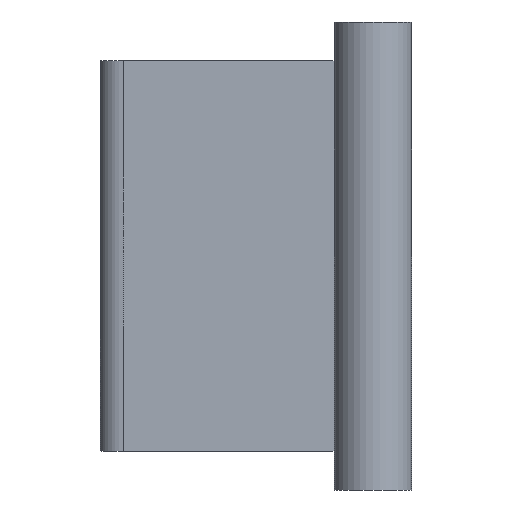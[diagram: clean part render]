
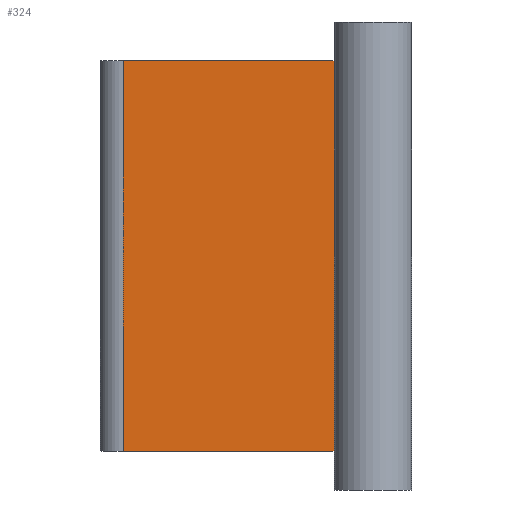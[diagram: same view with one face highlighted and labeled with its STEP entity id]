
A CAD part, left-side view. The second image highlights one B-rep face of the part: STEP entity #324.
In plain terms, the highlighted planar face has unit normal (-1, 0, 0).
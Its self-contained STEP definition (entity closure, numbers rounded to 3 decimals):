
#5 = VERTEX_POINT ( 'NONE', #74 ) ;
#10 = CARTESIAN_POINT ( 'NONE',  ( -271., 70., 50. ) ) ;
#13 = EDGE_CURVE ( 'NONE', #587, #255, #21, .T. ) ;
#14 = LINE ( 'NONE', #10, #203 ) ;
#21 = LINE ( 'NONE', #608, #222 ) ;
#38 = EDGE_CURVE ( 'NONE', #5, #587, #122, .T. ) ;
#40 = ORIENTED_EDGE ( 'NONE', *, *, #13, .T. ) ;
#54 = ORIENTED_EDGE ( 'NONE', *, *, #279, .T. ) ;
#62 = DIRECTION ( 'NONE',  ( 0., -1., 0. ) ) ;
#64 = EDGE_CURVE ( 'NONE', #5, #337, #14, .T. ) ;
#66 = DIRECTION ( 'NONE',  ( 0., 0., -1. ) ) ;
#74 = CARTESIAN_POINT ( 'NONE',  ( -271., 64., 50. ) ) ;
#88 = AXIS2_PLACEMENT_3D ( 'NONE', #243, #299, #460 ) ;
#91 = LINE ( 'NONE', #483, #360 ) ;
#93 = PLANE ( 'NONE',  #88 ) ;
#122 = LINE ( 'NONE', #220, #410 ) ;
#149 = ORIENTED_EDGE ( 'NONE', *, *, #38, .T. ) ;
#188 = CARTESIAN_POINT ( 'NONE',  ( -271., 64., -50. ) ) ;
#203 = VECTOR ( 'NONE', #503, 1000. ) ;
#220 = CARTESIAN_POINT ( 'NONE',  ( -271., 64., -50. ) ) ;
#222 = VECTOR ( 'NONE', #62, 1000. ) ;
#224 = EDGE_LOOP ( 'NONE', ( #348, #149, #40, #54 ) ) ;
#243 = CARTESIAN_POINT ( 'NONE',  ( -271., 70., -50. ) ) ;
#255 = VERTEX_POINT ( 'NONE', #271 ) ;
#271 = CARTESIAN_POINT ( 'NONE',  ( -271., 10., -50. ) ) ;
#279 = EDGE_CURVE ( 'NONE', #255, #337, #91, .T. ) ;
#283 = DIRECTION ( 'NONE',  ( 0., 0., 1. ) ) ;
#299 = DIRECTION ( 'NONE',  ( 1., 0., 0. ) ) ;
#324 = ADVANCED_FACE ( 'NONE', ( #332 ), #93, .F. ) ;
#332 = FACE_OUTER_BOUND ( 'NONE', #224, .T. ) ;
#337 = VERTEX_POINT ( 'NONE', #357 ) ;
#348 = ORIENTED_EDGE ( 'NONE', *, *, #64, .F. ) ;
#357 = CARTESIAN_POINT ( 'NONE',  ( -271., 10., 50. ) ) ;
#360 = VECTOR ( 'NONE', #283, 1000. ) ;
#410 = VECTOR ( 'NONE', #66, 1000. ) ;
#460 = DIRECTION ( 'NONE',  ( 0., 0., -1. ) ) ;
#483 = CARTESIAN_POINT ( 'NONE',  ( -271., 10., -50. ) ) ;
#503 = DIRECTION ( 'NONE',  ( 0., -1., 0. ) ) ;
#587 = VERTEX_POINT ( 'NONE', #188 ) ;
#608 = CARTESIAN_POINT ( 'NONE',  ( -271., 70., -50. ) ) ;
